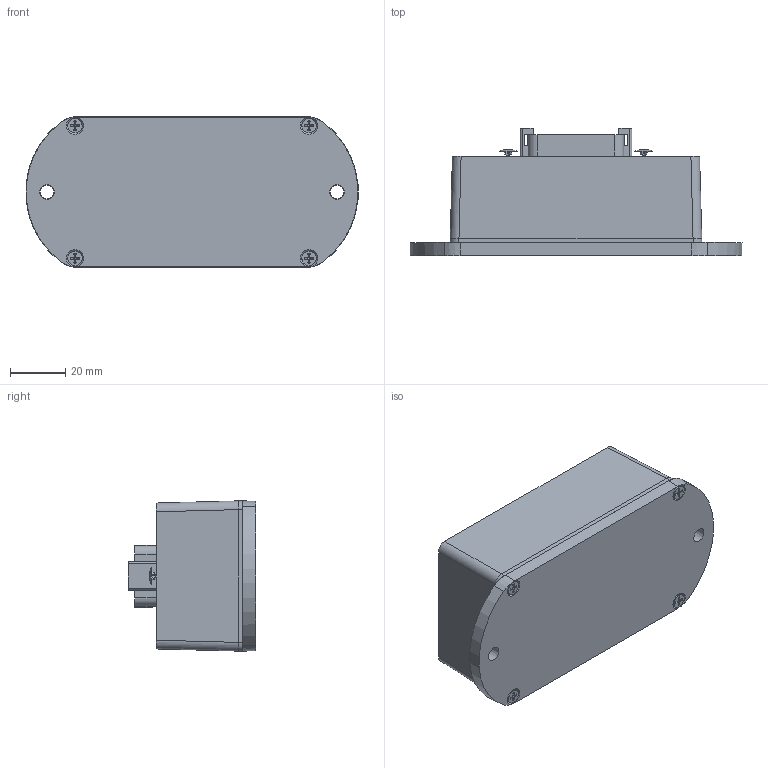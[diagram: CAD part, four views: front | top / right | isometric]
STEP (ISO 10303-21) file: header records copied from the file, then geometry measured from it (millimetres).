
FILE_DESCRIPTION(/* description */ ('','CAx-IF Rec.Pracs.---Representation and Presentation of Product Manufacturing Information (PMI)---4.0---2014-10-13'),/* implementation_level */ '2;1');
FILE_NAME(/* name */ 'S:\Projects\CAN-2OUT-CAT, CAT171105, Proj_12004\UNIT ASSEMBLY\RELEASED\A\DT15-08PA generic housing.stp',/* time_stamp */ '2023-08-24T13:27:20-04:00',/* author */ ('tfisher'),/* organization */ (''),/* preprocessor_version */ 'ST-DEVELOPER v18.1',/* originating_system */ 'Autodesk Inventor 2021',/* authorisation */ '');
FILE_SCHEMA (('AP242_MANAGED_MODEL_BASED_3D_ENGINEERING_MIM_LF { 1 0 10303 442 1 1 4 }'));
Length unit declared in the file: millimetre
Products named in the file (1): CAT171105-A
Bounding box: 120.68 x 46.33 x 54.61 mm (x, y, z)
Volume: 165124.9 mm3; surface area: 49769.1 mm2
Topology: 1 solids, 24 shells, 1086 faces, 2995 edges, 1996 vertices
Faces by surface type: plane 567, bspline 259, cylinder 152, cone 82, torus 24, sphere 2
Full cylindrical faces by diameter (mm): 1.575 x24, 2.464 x4, 2.794 x2, 3 x4, 3.099 x2, 3.404 x4, 3.505 x2, 5.2 x4, 6.502 x2, 8.077 x1
Entity records: 37945 total; most frequent: CARTESIAN_POINT 11157, ORIENTED_EDGE 5950, DIRECTION 4465, EDGE_CURVE 2975, VERTEX_POINT 1988, LINE 1703, VECTOR 1703, AXIS2_PLACEMENT_3D 1381
